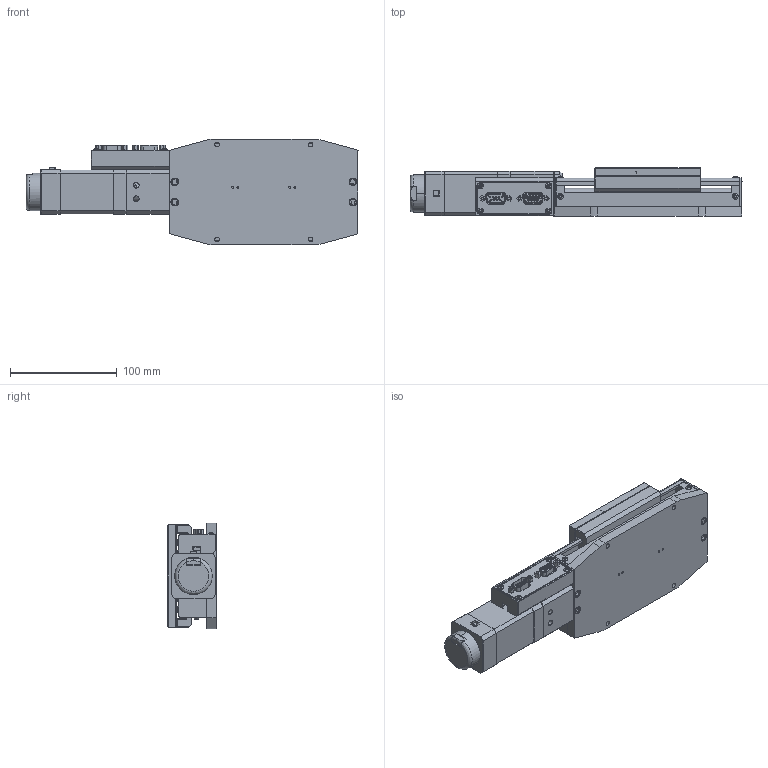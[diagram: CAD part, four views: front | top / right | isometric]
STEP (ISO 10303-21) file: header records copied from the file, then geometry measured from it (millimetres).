
FILE_DESCRIPTION (( 'STEP AP214' ), '1' );
FILE_NAME ('L3500.050-STC_v2_20180821.STEP', '2018-08-22T11:23:06', ( '' ), ( '' ), 'SwSTEP 2.0', 'SolidWorks 2017', '' );
FILE_SCHEMA (( 'AUTOMOTIVE_DESIGN' ));
Length unit declared in the file: millimetre
Products named in the file (1): L3500.050-STC_v2_20180821
Bounding box: 311.15 x 45.32 x 99.06 mm (x, y, z)
Volume: 660725 mm3; surface area: 249074.6 mm2
Topology: 59 solids, 59 shells, 2764 faces, 6999 edges, 4482 vertices
Faces by surface type: plane 1458, cylinder 1016, cone 184, bspline 77, torus 29
Entity records: 86725 total; most frequent: CARTESIAN_POINT 18555, DIRECTION 14193, ORIENTED_EDGE 13798, EDGE_CURVE 6899, AXIS2_PLACEMENT_3D 4887, VERTEX_POINT 4482, VECTOR 4419, LINE 4419
